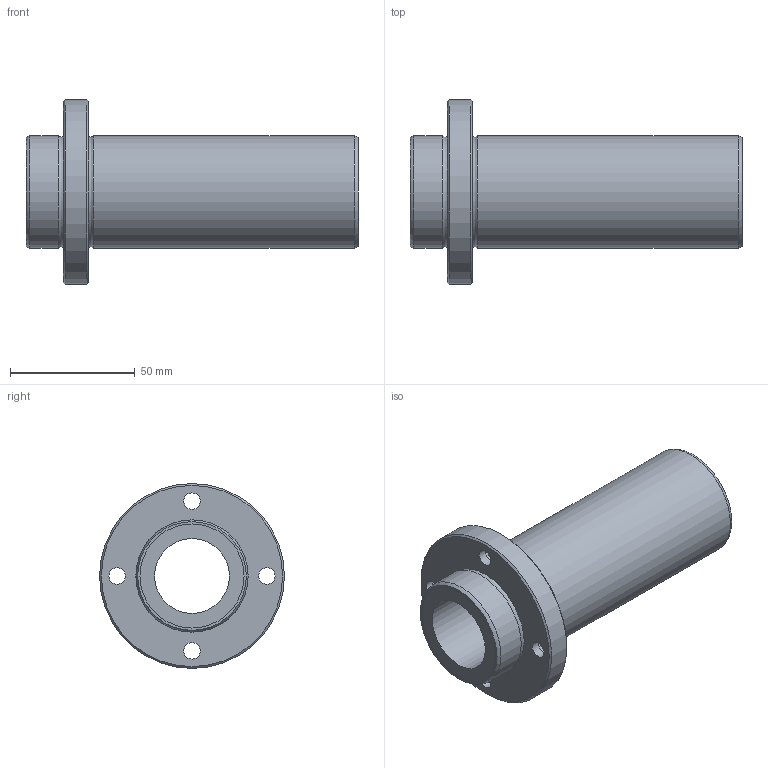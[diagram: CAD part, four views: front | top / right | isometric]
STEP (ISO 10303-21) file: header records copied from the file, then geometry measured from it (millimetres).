
FILE_DESCRIPTION((''),'2;1');
FILE_NAME('D:\製品 (図面)\カタログ用3D\メンテナンスフリー関連\STEP形式\LFDB-MF\LFDB30MF.stp','2010-06-01T15:38:37',('Tsuchiya'),(''),'Autodesk Inventor 10','Autodesk Inventor 10','');
FILE_SCHEMA(('AUTOMOTIVE_DESIGN { 1 0 10303 214 1 1 1 1 }'));
Length unit declared in the file: millimetre
Products named in the file (1): LFDB30MF
Bounding box: 133 x 74 x 74 mm (x, y, z)
Volume: 141075.6 mm3; surface area: 40138.1 mm2
Topology: 1 solids, 1 shells, 30 faces, 54 edges, 34 vertices
Faces by surface type: bspline 14, cylinder 6, plane 6, cone 2, torus 2
Full cylindrical faces by diameter (mm): 30 x1, 41.7 x2, 45 x2, 74 x1
Entity records: 907 total; most frequent: CARTESIAN_POINT 371, DIRECTION 102, ORIENTED_EDGE 68, EDGE_LOOP 68, AXIS2_PLACEMENT_3D 51, FACE_BOUND 38, VERTEX_POINT 34, CIRCLE 34
